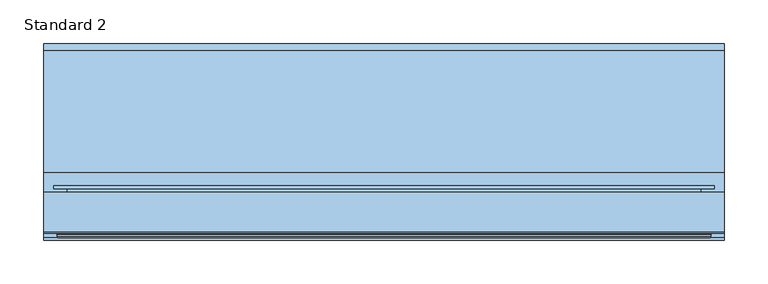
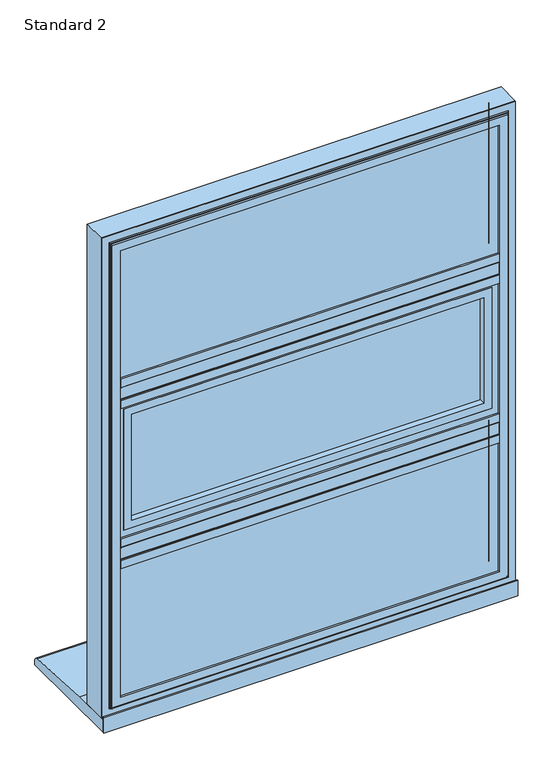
"""IFC4 building model written with IfcOpenShell, lengths in millimetres: window geometry, SMARTS_AlithermHeritage : Standard 2."""

import ifcopenshell
import ifcopenshell.guid

model = None  # the IFC model being written
_history = None  # IfcOwnerHistory: only IFC2X3 demands one
_inside = {}  # id of a spatial element -> (the spatial element, [elements in it])
_under = {}  # id of a project, library or spatial element -> (it, [spatial elements below it])
_declared = {}  # id of a project -> (the project, [libraries it declares])
_typed = {}  # id of a type object -> (the type object, [elements of that type])
_made_of = {}  # id of a material, layer set ... -> (it, [elements and type objects made of it])


def new_model(schema):
    """Start an empty IFC model of exactly this schema.

    Asked for "IFC4X3", IfcOpenShell would pick the latest addendum, in which some entities
    have other attributes; the version numbers below select the first issue.
    IFC2X3 requires an IfcOwnerHistory on every rooted entity: one is made here for all.
    """
    global model, _history
    if schema == "IFC4X3":
        model = ifcopenshell.file(schema_version=(4, 3, 0, 0))
    else:
        model = ifcopenshell.file(schema=schema)
    _inside.clear()
    _under.clear()
    _declared.clear()
    _typed.clear()
    _made_of.clear()
    _history = None
    if model.schema == "IFC2X3":
        org = make("IfcOrganization", Name="unknown")
        user = make(
            "IfcPersonAndOrganization",
            ThePerson=make("IfcPerson", FamilyName="unknown"),
            TheOrganization=org,
        )
        app = make(
            "IfcApplication",
            ApplicationDeveloper=org,
            Version="unknown",
            ApplicationFullName="unknown",
            ApplicationIdentifier="unknown",
        )
        _history = make(
            "IfcOwnerHistory",
            OwningUser=user,
            OwningApplication=app,
            ChangeAction="ADDED",
            CreationDate=0,
        )
    return model


def make(cls, **values):
    """One entity of the class cls with the attributes given. An attribute that is None is left unset."""
    return model.create_entity(
        cls, **{name: value for name, value in values.items() if value is not None}
    )


def rooted(cls, **values):
    """An entity with a GlobalId (a new one), such as an element, a storey or a relation."""
    return make(cls, GlobalId=ifcopenshell.guid.new(), OwnerHistory=_history, **values)


def si_unit(unit_type, name, prefix=None):
    """IfcSIUnit, for example si_unit("LENGTHUNIT", "METRE", prefix="MILLI")."""
    return make("IfcSIUnit", UnitType=unit_type, Prefix=prefix, Name=name)


def assignment(units):
    """IfcUnitAssignment: the units of a project."""
    return None if units is None else make("IfcUnitAssignment", Units=units)


def point(xyz):
    """IfcCartesianPoint."""
    return None if xyz is None else make("IfcCartesianPoint", Coordinates=xyz)


def direction(xyz):
    """IfcDirection."""
    return None if xyz is None else make("IfcDirection", DirectionRatios=xyz)


def frame(location, z_axis=None, x_axis=None):
    """IfcAxis2Placement3D, a coordinate frame: its origin and axes. An axis left out is left unset."""
    return make(
        "IfcAxis2Placement3D",
        Location=point(location),
        Axis=direction(z_axis),
        RefDirection=direction(x_axis),
    )


def frame_2d(location, x_axis=None):
    """IfcAxis2Placement2D, a coordinate frame in the plane: its origin and x axis."""
    return make(
        "IfcAxis2Placement2D", Location=point(location), RefDirection=direction(x_axis)
    )


def origin():
    """The frame at (0, 0, 0) with its axes left unset."""
    return frame((0.0, 0.0, 0.0))


def place(relative_to, where):
    """IfcLocalPlacement: puts the frame where relative to a parent placement (None: the world)."""
    return make(
        "IfcLocalPlacement", PlacementRelTo=relative_to, RelativePlacement=where
    )


def context(
    kind, dimensions, precision=None, world=None, true_north=None, identifier=None
):
    """IfcGeometricRepresentationContext, for example the 3D "Model" context."""
    return make(
        "IfcGeometricRepresentationContext",
        ContextIdentifier=identifier,
        ContextType=kind,
        CoordinateSpaceDimension=dimensions,
        Precision=precision,
        WorldCoordinateSystem=world,
        TrueNorth=true_north,
    )


def project(units=None, contexts=None):
    """IfcProject with its units and contexts."""
    return rooted(
        "IfcProject",
        Name="project",
        RepresentationContexts=contexts,
        UnitsInContext=assignment(units),
    )


def spatial(cls, under=None, at=None, **own):
    """A site, building, storey or space (cls), placed at a placement, below another one or the project."""
    s = rooted(cls, ObjectPlacement=at, **own)
    if under is not None:
        _under.setdefault(under.id(), (under, []))[1].append(s)
    return s


def polyline(points):
    """IfcPolyline through the points."""
    return make("IfcPolyline", Points=[point(p) for p in points])


def circle_curve(where, radius):
    """IfcCircle in the frame where."""
    return make("IfcCircle", Position=where, Radius=radius)


def ellipse_curve(where, semi_axis1, semi_axis2):
    """IfcEllipse in the frame where."""
    return make(
        "IfcEllipse", Position=where, SemiAxis1=semi_axis1, SemiAxis2=semi_axis2
    )


def trimmed(basis, trim1, trim2, sense, master):
    """IfcTrimmedCurve: the piece of a basis curve between two trims."""
    return make(
        "IfcTrimmedCurve",
        BasisCurve=basis,
        Trim1=trim1,
        Trim2=trim2,
        SenseAgreement=sense,
        MasterRepresentation=master,
    )


def segment(curve, same_sense, transition):
    """IfcCompositeCurveSegment."""
    return make(
        "IfcCompositeCurveSegment",
        Transition=transition,
        SameSense=same_sense,
        ParentCurve=curve,
    )


def composite_curve(segments, self_intersect=None):
    """IfcCompositeCurve: segments joined end to end."""
    return make("IfcCompositeCurve", Segments=segments, SelfIntersect=self_intersect)


def outline(outer, holes=None, kind="AREA"):
    """IfcArbitraryClosedProfileDef: a profile drawn as a closed curve; with holes, ...WithVoids."""
    if holes is None:
        return make("IfcArbitraryClosedProfileDef", ProfileType=kind, OuterCurve=outer)
    return make(
        "IfcArbitraryProfileDefWithVoids",
        ProfileType=kind,
        OuterCurve=outer,
        InnerCurves=holes,
    )


def extrude(swept, where, along, depth):
    """IfcExtrudedAreaSolid: the profile swept, set in the frame where, extruded along a direction by depth."""
    return make(
        "IfcExtrudedAreaSolid",
        SweptArea=swept,
        Position=where,
        ExtrudedDirection=direction(along),
        Depth=depth,
    )


def faces_of(points, faces, orient=None, outer=None):
    """IfcFace entities. A face is a list of loops; a loop is a list of indices into points, from 0.

    orient and outer hold one flag for each loop. By default every Orientation is true, the
    first loop of a face is its IfcFaceOuterBound and the others are IfcFaceBound.
    """
    made = []
    for i, loops in enumerate(faces):
        bounds = []
        for j, loop in enumerate(loops):
            is_outer = j == 0 if outer is None else outer[i][j]
            bounds.append(
                make(
                    "IfcFaceOuterBound" if is_outer else "IfcFaceBound",
                    Bound=make("IfcPolyLoop", Polygon=[points[k] for k in loop]),
                    Orientation=True if orient is None else orient[i][j],
                )
            )
        made.append(make("IfcFace", Bounds=bounds))
    return made


def faceted_brep(points, faces, orient=None, outer=None, voids=None):
    """IfcFacetedBrep: a solid bounded by flat faces; with voids (closed shells), ...WithVoids."""
    shared = [point(p) for p in points]
    hull = make("IfcClosedShell", CfsFaces=faces_of(shared, faces, orient, outer))
    if voids is None:
        return make("IfcFacetedBrep", Outer=hull)
    return make(
        "IfcFacetedBrepWithVoids",
        Outer=hull,
        Voids=[
            make(cls, CfsFaces=faces_of(shared, fs, o, b)) for cls, fs, o, b in voids
        ],
    )


def shape(context_of_items, identifier, shape_type, items):
    """IfcShapeRepresentation: the items that make up one representation, for example the "Body"."""
    return make(
        "IfcShapeRepresentation",
        ContextOfItems=context_of_items,
        RepresentationIdentifier=identifier,
        RepresentationType=shape_type,
        Items=items,
    )


def source(mapping_origin, context_of_items, identifier, shape_type, items):
    """IfcRepresentationMap: a shape defined once, which mapped items show again and again."""
    return make(
        "IfcRepresentationMap",
        MappingOrigin=mapping_origin,
        MappedRepresentation=shape(context_of_items, identifier, shape_type, items),
    )


def transform(
    local_origin,
    x_axis=None,
    y_axis=None,
    z_axis=None,
    scale=None,
    scale2=None,
    scale3=None,
    uniform=True,
):
    """IfcCartesianTransformationOperator3D, or its non-uniform kind. x_axis, y_axis, z_axis: its Axis1, 2, 3."""
    if uniform:
        return make(
            "IfcCartesianTransformationOperator3D",
            Axis1=direction(x_axis),
            Axis2=direction(y_axis),
            LocalOrigin=point(local_origin),
            Scale=scale,
            Axis3=direction(z_axis),
        )
    return make(
        "IfcCartesianTransformationOperator3DnonUniform",
        Axis1=direction(x_axis),
        Axis2=direction(y_axis),
        LocalOrigin=point(local_origin),
        Scale=scale,
        Axis3=direction(z_axis),
        Scale2=scale2,
        Scale3=scale3,
    )


def mapped(mapping_source, mapping_target):
    """IfcMappedItem: shows the shape of a source again, moved by a transform."""
    return make(
        "IfcMappedItem", MappingSource=mapping_source, MappingTarget=mapping_target
    )


def made_of(thing, what):
    """Note that an element or type object is made of a material, layer set ...; save() writes the relation."""
    if what is not None:
        _made_of.setdefault(what.id(), (what, []))[1].append(thing)
    return thing


def element(
    cls,
    number,
    at=None,
    inside=None,
    cuts=None,
    type_object=None,
    material=None,
    context=None,
    identifier="Body",
    shape_type=None,
    held_by="IfcProductDefinitionShape",
    body=None,
    shapes=None,
    **own,
):
    """One element of the class cls, such as IfcWall. Its Tag is "e" and its number.

    at: its placement. inside: the storey or other place that contains it. cuts: it is an
    opening in that element (IfcRelVoidsElement). A single representation is given by context,
    identifier, shape_type and body (its items); several are given by shapes. held_by: the class
    of the entity that holds the representations. save() writes the other relations.
    """
    e = rooted(cls, Tag="e%d" % number, ObjectPlacement=at, **own)
    if body is not None:
        shapes = [shape(context, identifier, shape_type, body)]
    if shapes is not None:
        e.Representation = make(held_by, Representations=shapes)
    if inside is not None:
        _inside.setdefault(inside.id(), (inside, []))[1].append(e)
    if cuts is not None:
        rooted(
            "IfcRelVoidsElement", RelatingBuildingElement=cuts, RelatedOpeningElement=e
        )
    if type_object is not None:
        _typed.setdefault(type_object.id(), (type_object, []))[1].append(e)
    return made_of(e, material)


def aggregate(whole, parts):
    """IfcRelAggregates: a whole, such as a stair, and the parts it consists of."""
    return rooted("IfcRelAggregates", RelatingObject=whole, RelatedObjects=parts)


def save(model, path):
    """Write the relations noted so far, then the file.

    IfcRelAggregates (storeys below a building ...), IfcRelContainedInSpatialStructure (elements
    in a storey), IfcRelDefinesByType, IfcRelAssociatesMaterial and IfcRelDeclares: one each for
    every whole, place, type object, material and project.
    """
    for whole, parts in _under.values():
        aggregate(whole, parts)
    for where, things in _inside.values():
        rooted(
            "IfcRelContainedInSpatialStructure",
            RelatedElements=things,
            RelatingStructure=where,
        )
    for kind, things in _typed.values():
        rooted("IfcRelDefinesByType", RelatedObjects=things, RelatingType=kind)
    for what, things in _made_of.values():
        rooted("IfcRelAssociatesMaterial", RelatedObjects=things, RelatingMaterial=what)
    for by, libraries in _declared.values():
        rooted("IfcRelDeclares", RelatingContext=by, RelatedDefinitions=libraries)
    model.write(path)


def plane_surface(at):
    """IfcPlane: the flat surface through the origin of the frame at, square to its z axis."""
    return make("IfcPlane", Position=at)


def cylinder_surface(at, radius):
    """IfcCylindricalSurface: all points at the distance radius from the z axis of the frame at."""
    return make("IfcCylindricalSurface", Position=at, Radius=radius)


def revolved_surface(curve, axis_point, axis_direction):
    """IfcSurfaceOfRevolution: the curve turned about the line through axis_point along axis_direction."""
    return make(
        "IfcSurfaceOfRevolution",
        SweptCurve=make("IfcArbitraryOpenProfileDef", ProfileType="CURVE", Curve=curve),
        AxisPosition=make("IfcAxis1Placement", Location=point(axis_point), Axis=direction(axis_direction)),
    )


def advanced_brep(points, edges, surfaces, faces):
    """IfcAdvancedBrep: a solid bounded by faces that lie on surfaces and meet in shared edges.

    An edge is (start, end): straight between two places in points (the first is 0);
    or (start, end, curve); or (start, end, curve, False) where it runs against its curve.
    A face is (place in surfaces, loops), or (place, loops, False) where it looks against
    its surface's normal. A loop lists edges by number (the first is 1), with a minus sign
    where the edge is run from its end to its start. The first loop is the outer one.
    """
    corners = [point(p) for p in points]
    vertices = [make("IfcVertexPoint", VertexGeometry=c) for c in corners]
    made = []
    for start, end, *more in edges:
        made.append(
            make(
                "IfcEdgeCurve",
                EdgeStart=vertices[start],
                EdgeEnd=vertices[end],
                EdgeGeometry=more[0] if more else make("IfcPolyline", Points=[corners[start], corners[end]]),
                SameSense=more[1] if len(more) > 1 else True,
            )
        )
    hull = []
    for where, loops, *sense in faces:
        bounds = []
        for j, loop in enumerate(loops):
            ring = [make("IfcOrientedEdge", EdgeElement=made[abs(k) - 1], Orientation=k > 0) for k in loop]
            bounds.append(
                make(
                    "IfcFaceOuterBound" if j == 0 else "IfcFaceBound",
                    Bound=make("IfcEdgeLoop", EdgeList=ring),
                    Orientation=True,
                )
            )
        hull.append(make("IfcAdvancedFace", Bounds=bounds, FaceSurface=surfaces[where], SameSense=sense[0] if sense else True))
    return make("IfcAdvancedBrep", Outer=make("IfcClosedShell", CfsFaces=hull))


def standard_2_2b1a771f(model_context):
    return source(origin(), model_context, "Body", "SolidModel", [
        extrude(outline(polyline([(372.3058544, 95.2798432), (372.3058544, 47.279476), (-372.3058544, 47.279476), (-372.3058544, 95.2798432), (372.3058544, 95.2798432)])), frame((0.0, 0.0, 939.6391878), z_axis=(0.0, 0.0, 1.0), x_axis=(1.0, 0.0, 0.0)), (0.0, 0.0, 1.0), 27.3882911),
        extrude(outline(composite_curve([segment(polyline([(47.279476, 924.3333333), (43.2798432, 924.3333333), (43.2798432, 940.3333333)]), True, "CONTINUOUS"), segment(trimmed(circle_curve(frame_2d((44.2798432, 940.3333333)), 1.0), [point((43.2798432, 940.3333333))], [point((44.2798432, 941.3333333))], False, "CARTESIAN"), True, "CONTINUOUS"), segment(polyline([(44.2798432, 941.3333333), (45.7798432, 941.3333333), (45.7798432, 965.3333333), (44.2798432, 965.3333333)]), True, "CONTINUOUS"), segment(trimmed(circle_curve(frame_2d((44.2798432, 966.3333333)), 1.0), [point((44.2798432, 965.3333333))], [point((43.2798432, 966.3333333))], False, "CARTESIAN"), True, "CONTINUOUS"), segment(polyline([(43.2798432, 966.3333333), (43.2798432, 982.3333333), (47.279476, 982.3333333), (47.279476, 924.3333333)]), True, "CONTINUOUS")], self_intersect=False)), frame((-357.0, 0.0, 0.0), z_axis=(1.0, 0.0, 0.0), x_axis=(0.0, 1.0, 0.0)), (0.0, 0.0, 1.0), 714.0),
        extrude(outline(polyline([(372.3058544, 95.2798432), (372.3058544, 47.279476), (-372.3058544, 47.279476), (-372.3058544, 95.2798432), (372.3058544, 95.2798432)])), frame((0.0, 0.0, 1257.9725211), z_axis=(0.0, 0.0, 1.0), x_axis=(1.0, 0.0, 0.0)), (0.0, 0.0, 1.0), 27.3882911),
        extrude(outline(composite_curve([segment(polyline([(47.279476, 1242.6666667), (43.2798432, 1242.6666667), (43.2798432, 1258.6666667)]), True, "CONTINUOUS"), segment(trimmed(circle_curve(frame_2d((44.2798432, 1258.6666667)), 1.0), [point((43.2798432, 1258.6666667))], [point((44.2798432, 1259.6666667))], False, "CARTESIAN"), True, "CONTINUOUS"), segment(polyline([(44.2798432, 1259.6666667), (45.7798432, 1259.6666667), (45.7798432, 1283.6666667), (44.2798432, 1283.6666667)]), True, "CONTINUOUS"), segment(trimmed(circle_curve(frame_2d((44.2798432, 1284.6666667)), 1.0), [point((44.2798432, 1283.6666667))], [point((43.2798432, 1284.6666667))], False, "CARTESIAN"), True, "CONTINUOUS"), segment(polyline([(43.2798432, 1284.6666667), (43.2798432, 1300.6666667), (47.279476, 1300.6666667), (47.279476, 1242.6666667)]), True, "CONTINUOUS")], self_intersect=False)), frame((-357.0, 0.0, 0.0), z_axis=(1.0, 0.0, 0.0), x_axis=(0.0, 1.0, 0.0)), (0.0, 0.0, 1.0), 714.0),
        extrude(outline(polyline([(-367.0, 75.2798432), (367.0, 75.2798432), (367.0, 71.2798432), (-367.0, 71.2798432), (-367.0, 75.2798432)])), frame((0.0, 0.0, 658.0), z_axis=(0.0, 0.0, 1.0), x_axis=(1.0, 0.0, 0.0)), (0.0, 0.0, 1.0), 276.3333333),
        extrude(outline(polyline([(-367.0, 55.2798432), (367.0, 55.2798432), (367.0, 51.2798432), (-367.0, 51.2798432), (-367.0, 55.2798432)])), frame((0.0, 0.0, 658.0), z_axis=(0.0, 0.0, 1.0), x_axis=(1.0, 0.0, 0.0)), (0.0, 0.0, 1.0), 276.3333333),
        extrude(outline(polyline([(934.3333333, -367.0), (658.0, -367.0), (658.0, 367.0), (934.3333333, 367.0), (934.3333333, -367.0)]), holes=[polyline([(924.3333333, 357.0), (668.0, 357.0), (668.0, -357.0), (924.3333333, -357.0), (924.3333333, 357.0)])]), frame((0.0, 55.2798432, 0.0), z_axis=(0.0, 1.0, 0.0), x_axis=(0.0, 0.0, 1.0)), (0.0, 0.0, 1.0), 16.0),
        faceted_brep([(366.8148849, 95.2798432, 934.1482182), (357.0, 78.2798098, 924.3333333), (-357.0, 78.2798098, 924.3333333), (-366.8148849, 95.2798432, 934.1482182), (372.3702676, 78.2798098, 939.7036009), (372.3702676, 95.2798432, 939.7036009), (-372.3702676, 95.2798432, 939.7036009), (-372.3702676, 78.2798098, 939.7036009), (-372.3702676, 78.2798098, 652.6297324), (-372.3702676, 95.2798432, 652.6297324), (372.3702676, 95.2798432, 652.6297324), (372.3702676, 78.2798098, 652.6297324), (-366.8148849, 95.2798432, 658.1851151), (366.8148849, 95.2798432, 658.1851151), (357.0, 78.2798098, 668.0), (-357.0, 78.2798098, 668.0)], [[[0, 1, 2, 3]], [[4, 5, 6, 7]], [[8, 9, 10, 11]], [[5, 10, 9, 6], [3, 12, 13, 0]], [[7, 8, 11, 4], [1, 14, 15, 2]], [[3, 2, 15, 12]], [[7, 6, 9, 8]], [[12, 15, 14, 13]], [[13, 14, 1, 0]], [[11, 10, 5, 4]]]),
        extrude(outline(polyline([(-343.5, 89.2798432), (343.5, 89.2798432), (343.5, 85.2798432), (-343.5, 85.2798432), (-343.5, 89.2798432)])), frame((0.0, 0.0, 995.8333333), z_axis=(0.0, 0.0, 1.0), x_axis=(1.0, 0.0, 0.0)), (0.0, 0.0, 1.0), 233.3333333),
        extrude(outline(polyline([(-343.5, 69.2798432), (343.5, 69.2798432), (343.5, 65.2798432), (-343.5, 65.2798432), (-343.5, 69.2798432)])), frame((0.0, 0.0, 995.8333333), z_axis=(0.0, 0.0, 1.0), x_axis=(1.0, 0.0, 0.0)), (0.0, 0.0, 1.0), 233.3333333),
        extrude(outline(polyline([(1229.1666667, -343.5), (995.8333333, -343.5), (995.8333333, 343.5), (1229.1666667, 343.5), (1229.1666667, -343.5)]), holes=[polyline([(1219.1666667, 333.5), (1005.8333333, 333.5), (1005.8333333, -333.5), (1219.1666667, -333.5), (1219.1666667, 333.5)])]), frame((0.0, 69.2798432, 0.0), z_axis=(0.0, 1.0, 0.0), x_axis=(0.0, 0.0, 1.0)), (0.0, 0.0, 1.0), 16.0),
        extrude(outline(polyline([(1232.6719623, -347.0052956), (992.3280377, -347.0052956), (992.3280377, 347.0052956), (1232.6719623, 347.0052956), (1232.6719623, -347.0052956)]), holes=[polyline([(1217.6666667, 332.0), (1007.3333333, 332.0), (1007.3333333, -332.0), (1217.6666667, -332.0), (1217.6666667, 332.0)])]), frame((0.0, 51.2798432, 0.0), z_axis=(0.0, 1.0, 0.0), x_axis=(0.0, 0.0, 1.0)), (0.0, 0.0, 1.0), 11.3),
        extrude(outline(polyline([(976.6881375, -362.6451958), (976.6881375, 362.6451958), (1248.3118625, 362.6451958), (1248.3118625, -362.6451958), (976.6881375, -362.6451958)]), holes=[polyline([(1232.6666667, -347.0), (1232.6666667, 347.0), (992.3333333, 347.0), (992.3333333, -347.0), (1232.6666667, -347.0)])]), frame((0.0, 51.2798432, 0.0), z_axis=(0.0, 1.0, 0.0), x_axis=(0.0, 0.0, 1.0)), (0.0, 0.0, 1.0), 41.6),
        advanced_brep(
        [(-332.0, 98.0798432, 1217.6666667), (-332.0, 92.8798432, 1217.6666667), (-332.0, 92.8798432, 1007.3333333), (-332.0, 98.0798432, 1007.3333333), (332.0, 92.8798432, 1007.3333333), (332.0, 98.0798432, 1007.3333333), (332.0, 92.8798432, 1217.6666667), (332.0, 98.0798432, 1217.6666667), (-378.2, 99.2798432, 1263.8666667), (-378.2, 103.2798432, 1263.8666667), (-378.2, 103.2798432, 961.1333333), (-378.2, 99.2798432, 961.1333333), (378.2, 103.2798432, 961.1333333), (378.2, 99.2798432, 961.1333333), (378.2, 103.2798432, 1263.8666667), (378.2, 99.2798432, 1263.8666667), (-363.1467657, 99.2798432, 1248.8134324), (363.1467657, 99.2798432, 1248.8134324), (363.1467657, 99.2798432, 976.1865676), (-363.1467657, 99.2798432, 976.1865676), (-349.2, 103.2798432, 990.1333333), (349.2, 103.2798432, 990.1333333), (349.2, 103.2798432, 1234.8666667), (-349.2, 103.2798432, 1234.8666667), (-363.1467657, 92.8798432, 1248.8134324), (-363.1467657, 92.8798432, 976.1865676), (363.1467657, 92.8798432, 976.1865676), (363.1467657, 92.8798432, 1248.8134324), (-347.2, 101.2798432, 1232.8666667), (-347.2, 100.0798432, 1232.8666667), (-347.2, 100.0798432, 992.1333333), (-347.2, 101.2798432, 992.1333333), (-345.2, 98.0798432, 1230.8666667), (-345.2, 98.0798432, 994.1333333), (347.2, 100.0798432, 992.1333333), (347.2, 101.2798432, 992.1333333), (345.2, 98.0798432, 994.1333333), (347.2, 100.0798432, 1232.8666667), (347.2, 101.2798432, 1232.8666667), (345.2, 98.0798432, 1230.8666667)],
        [
            (0, 1),
            (1, 2),
            (2, 3),
            (3, 0),
            (2, 4),
            (4, 5),
            (5, 3),
            (4, 6),
            (6, 7),
            (7, 5),
            (6, 1),
            (0, 7),
            (8, 9),
            (9, 10),
            (10, 11),
            (11, 8),
            (10, 12),
            (12, 13),
            (13, 11),
            (12, 14),
            (14, 15),
            (15, 13),
            (15, 8),
            (16, 17),
            (17, 18),
            (18, 19),
            (19, 16),
            (14, 9),
            (20, 21),
            (21, 22),
            (22, 23),
            (23, 20),
            (24, 16),
            (19, 25),
            (25, 24),
            (18, 26),
            (26, 25),
            (17, 27),
            (27, 26),
            (27, 24),
            (28, 29),
            (29, 30),
            (30, 31),
            (31, 28),
            (29, 32, ellipse_curve(frame((-345.2, 100.0798432, 1230.8666667), z_axis=(0.7071067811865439, 0.0, 0.7071067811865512), x_axis=(0.7071067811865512, 0.0, -0.7071067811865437)), 2.8284271, 2.0)),
            (32, 33),
            (33, 30, ellipse_curve(frame((-345.2, 100.0798432, 994.1333333), z_axis=(0.7071067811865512, 0.0, -0.7071067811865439), x_axis=(-0.7071067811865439, 0.0, -0.707106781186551)), 2.8284271, 2.0)),
            (30, 34),
            (34, 35),
            (35, 31),
            (33, 36),
            (36, 34, ellipse_curve(frame((345.2, 100.0798432, 994.1333333), z_axis=(0.7071067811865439, 0.0, 0.7071067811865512), x_axis=(0.707106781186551, 0.0, -0.7071067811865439)), 2.8284271, 2.0)),
            (34, 37),
            (37, 38),
            (38, 35),
            (36, 39),
            (39, 37, ellipse_curve(frame((345.2, 100.0798432, 1230.8666667), z_axis=(-0.7071067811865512, 0.0, 0.7071067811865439), x_axis=(0.7071067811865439, 0.0, 0.707106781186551)), 2.8284271, 2.0)),
            (32, 39),
            (37, 29),
            (28, 38),
            (23, 28, ellipse_curve(frame((-349.2, 101.2798432, 1234.8666667), z_axis=(-0.7071067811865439, 0.0, -0.7071067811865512), x_axis=(-0.7071067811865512, 0.0, 0.7071067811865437)), 2.8284271, 2.0)),
            (31, 20, ellipse_curve(frame((-349.2, 101.2798432, 990.1333333), z_axis=(-0.7071067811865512, 0.0, 0.7071067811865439), x_axis=(0.7071067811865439, 0.0, 0.707106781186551)), 2.8284271, 2.0)),
            (35, 21, ellipse_curve(frame((349.2, 101.2798432, 990.1333333), z_axis=(-0.7071067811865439, 0.0, -0.7071067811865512), x_axis=(-0.707106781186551, 0.0, 0.7071067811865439)), 2.8284271, 2.0)),
            (38, 22, ellipse_curve(frame((349.2, 101.2798432, 1234.8666667), z_axis=(0.7071067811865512, 0.0, -0.7071067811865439), x_axis=(-0.7071067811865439, 0.0, -0.707106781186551)), 2.8284271, 2.0)),
        ],
        [
            plane_surface(frame((-332.0, 92.8798432, 1217.6666667), z_axis=(1.0, 0.0, 0.0), x_axis=(0.0, 0.0, -1.0))),
            plane_surface(frame((-332.0, 92.8798432, 1007.3333333), z_axis=(0.0, 0.0, 1.0), x_axis=(1.0, 0.0, 0.0))),
            plane_surface(frame((332.0, 92.8798432, 1007.3333333), z_axis=(-1.0, 0.0, 0.0), x_axis=(0.0, 0.0, 1.0))),
            plane_surface(frame((332.0, 92.8798432, 1217.6666667), z_axis=(0.0, 0.0, -1.0), x_axis=(-1.0, 0.0, 0.0))),
            plane_surface(frame((-378.2, 103.2798432, 1263.8666667), z_axis=(-1.0, 0.0, 0.0), x_axis=(0.0, 0.0, -1.0))),
            plane_surface(frame((-378.2, 103.2798432, 961.1333333), z_axis=(0.0, 0.0, -1.0), x_axis=(1.0, 0.0, 0.0))),
            plane_surface(frame((378.2, 103.2798432, 961.1333333), z_axis=(1.0, 0.0, 0.0), x_axis=(0.0, 0.0, 1.0))),
            plane_surface(frame((378.2, 99.2798432, 1263.8666667), z_axis=(0.0, -1.0, 0.0), x_axis=(-1.0, 0.0, 0.0))),
            plane_surface(frame((378.2, 103.2798432, 1263.8666667), z_axis=(0.0, 0.0, 1.0), x_axis=(-1.0, 0.0, 0.0))),
            plane_surface(frame((349.2, 103.2798432, 1234.8666667), z_axis=(0.0, 1.0, 0.0), x_axis=(-1.0, 0.0, 0.0))),
            plane_surface(frame((-363.1467657, 99.2798432, 1248.8134324), z_axis=(-1.0, 0.0, 0.0), x_axis=(0.0, 0.0, -1.0))),
            plane_surface(frame((-363.1467657, 99.2798432, 976.1865676), z_axis=(0.0, 0.0, -1.0), x_axis=(1.0, 0.0, 0.0))),
            plane_surface(frame((363.1467657, 99.2798432, 976.1865676), z_axis=(1.0, 0.0, 0.0), x_axis=(0.0, 0.0, 1.0))),
            plane_surface(frame((363.1467657, 92.8798432, 1248.8134324), z_axis=(0.0, -1.0, 0.0), x_axis=(-1.0, 0.0, 0.0))),
            plane_surface(frame((363.1467657, 99.2798432, 1248.8134324), z_axis=(0.0, 0.0, 1.0), x_axis=(-1.0, 0.0, 0.0))),
            plane_surface(frame((-347.2, 100.0798432, 1232.8666667), z_axis=(1.0, 0.0, 0.0), x_axis=(0.0, 0.0, -1.0))),
            revolved_surface(polyline([(-347.2, 100.0798432, 992.1333333), (-347.2, 100.0798432, 1232.8666667)]), (-345.2, 100.0798432, 1242.6666667), (0.0, 0.0, -1.0)),
            plane_surface(frame((-347.2, 100.0798432, 992.1333333), z_axis=(0.0, 0.0, 1.0), x_axis=(1.0, 0.0, 0.0))),
            revolved_surface(polyline([(347.20000000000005, 100.0798432, 992.1333333), (-347.2, 100.0798432, 992.1333333)]), (-357.0, 100.0798432, 994.1333333), (1.0, 0.0, 0.0)),
            plane_surface(frame((347.2, 100.0798432, 992.1333333), z_axis=(-1.0, 0.0, 0.0), x_axis=(0.0, 0.0, 1.0))),
            revolved_surface(polyline([(347.2, 100.0798432, 1232.8666667), (347.2, 100.0798432, 992.1333333)]), (345.2, 100.0798432, 982.3333333), (0.0, 0.0, 1.0)),
            plane_surface(frame((332.0, 98.0798432, 1217.6666667), z_axis=(0.0, 1.0, 0.0), x_axis=(-1.0, 0.0, 0.0))),
            plane_surface(frame((347.2, 100.0798432, 1232.8666667), z_axis=(0.0, 0.0, -1.0), x_axis=(-1.0, 0.0, 0.0))),
            revolved_surface(polyline([(-347.20000000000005, 100.0798432, 1232.8666667), (347.2, 100.0798432, 1232.8666667)]), (357.0, 100.0798432, 1230.8666667), (-1.0, 0.0, 0.0)),
            cylinder_surface(frame((-349.2, 101.2798432, 1242.6666667), z_axis=(0.0, 0.0, 1.0), x_axis=(-1.0, 0.0, 0.0)), 2.0),
            cylinder_surface(frame((-357.0, 101.2798432, 990.1333333), z_axis=(-1.0, 0.0, 0.0), x_axis=(0.0, 0.0, -1.0)), 2.0),
            cylinder_surface(frame((349.2, 101.2798432, 982.3333333), z_axis=(0.0, 0.0, -1.0), x_axis=(1.0, 0.0, 0.0)), 2.0),
            cylinder_surface(frame((357.0, 101.2798432, 1234.8666667), z_axis=(1.0, 0.0, 0.0), x_axis=(0.0, 0.0, 1.0)), 2.0),
        ],
        [
            (0, [[1, 2, 3, 4]]),
            (1, [[-3, 5, 6, 7]]),
            (2, [[-6, 8, 9, 10]]),
            (3, [[-9, 11, -1, 12]]),
            (4, [[13, 14, 15, 16]]),
            (5, [[-15, 17, 18, 19]]),
            (6, [[-18, 20, 21, 22]]),
            (7, [[-19, -22, 23, -16], [24, 25, 26, 27]]),
            (8, [[-21, 28, -13, -23]]),
            (9, [[-28, -20, -17, -14], [29, 30, 31, 32]]),
            (10, [[33, -27, 34, 35]]),
            (11, [[-34, -26, 36, 37]]),
            (12, [[-36, -25, 38, 39]]),
            (13, [[-37, -39, 40, -35], [-11, -8, -5, -2]]),
            (14, [[-38, -24, -33, -40]]),
            (15, [[41, 42, 43, 44]]),
            (16, [[45, 46, 47, -42]]),
            (17, [[-43, 48, 49, 50]]),
            (18, [[-47, 51, 52, -48]]),
            (19, [[-49, 53, 54, 55]]),
            (20, [[-52, 56, 57, -53]]),
            (21, [[58, -56, -51, -46], [-7, -10, -12, -4]]),
            (22, [[-54, 59, -41, 60]]),
            (23, [[-57, -58, -45, -59]]),
            (24, [[61, -44, 62, -32]]),
            (25, [[-62, -50, 63, -29]]),
            (26, [[-63, -55, 64, -30]]),
            (27, [[-64, -60, -61, -31]]),
        ],
    ),
        extrude(outline(polyline([(1590.0, 390.0), (1590.0, -390.0), (635.0, -390.0), (635.0, 390.0), (1590.0, 390.0)]), holes=[polyline([(652.7000182, 372.2999818), (652.7000182, -372.2999818), (1572.2999818, -372.2999818), (1572.2999818, 372.2999818), (652.7000182, 372.2999818)])]), frame((0.0, 50.279857, 0.0), z_axis=(0.0, 1.0, 0.0), x_axis=(0.0, 0.0, 1.0)), (0.0, 0.0, 1.0), 44.9999962),
        advanced_brep(
        [(357.0, 43.2798432, 1557.0), (357.0, 47.2798432, 1557.0), (357.0, 47.2798432, 668.0), (357.0, 43.2798432, 668.0), (390.0, 50.279857, 1590.0), (390.0, 48.279857, 1590.0), (390.0, 48.279857, 635.0), (390.0, 50.279857, 635.0), (372.4999818, 43.2798432, 1572.4999818), (-372.4999818, 43.2798432, 1572.4999818), (-372.4999818, 43.2798432, 652.5000182), (372.4999818, 43.2798432, 652.5000182), (-357.0, 43.2798432, 668.0), (-357.0, 43.2798432, 1557.0), (-390.0, 50.279857, 1590.0), (-390.0, 48.279857, 1590.0), (-390.0, 50.279857, 635.0), (372.2999818, 50.279857, 1572.2999818), (-372.2999818, 50.279857, 1572.2999818), (-372.2999818, 50.279857, 652.7000182), (372.2999818, 50.279857, 652.7000182), (-357.0, 47.2798432, 1557.0), (-357.0, 47.2798432, 668.0), (-390.0, 48.279857, 635.0), (-372.2999818, 47.2798432, 1572.2999818), (372.2999818, 47.2798432, 1572.2999818), (372.2999818, 47.2798432, 652.7000182), (374.4999818, 46.779857, 650.5000182), (374.4999818, 45.2798432, 650.5000182), (-374.4999818, 45.2798432, 650.5000182), (-374.4999818, 46.779857, 650.5000182), (374.4999818, 46.779857, 1574.4999818), (374.4999818, 45.2798432, 1574.4999818), (-372.2999818, 47.2798432, 652.7000182), (-374.4999818, 45.2798432, 1574.4999818), (-374.4999818, 46.779857, 1574.4999818), (375.9999818, 48.279857, 1575.9999818), (375.9999818, 48.279857, 649.0000182), (-375.9999818, 48.279857, 649.0000182), (-375.9999818, 48.279857, 1575.9999818)],
        [
            (0, 1),
            (1, 2),
            (2, 3),
            (3, 0),
            (4, 5),
            (5, 6),
            (6, 7),
            (7, 4),
            (8, 9),
            (9, 10),
            (10, 11),
            (11, 8),
            (3, 12),
            (12, 13),
            (13, 0),
            (14, 15),
            (15, 5),
            (4, 14),
            (7, 16),
            (16, 14),
            (17, 18),
            (18, 19),
            (19, 20),
            (20, 17),
            (13, 21),
            (21, 1),
            (2, 22),
            (22, 12),
            (22, 21),
            (6, 23),
            (23, 16),
            (23, 15),
            (24, 18),
            (17, 25),
            (25, 24),
            (20, 26),
            (26, 25),
            (27, 28),
            (28, 29),
            (29, 30),
            (30, 27),
            (31, 32),
            (32, 28),
            (27, 31),
            (19, 33),
            (33, 26),
            (24, 33),
            (29, 34),
            (34, 35),
            (35, 30),
            (34, 32),
            (31, 35),
            (36, 31, ellipse_curve(frame((375.9999818, 46.779857, 1575.9999818), z_axis=(-0.7071067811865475, 0.0, 0.7071067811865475), x_axis=(-0.7071067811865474, 0.0, -0.7071067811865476)), 2.1213203, 1.5)),
            (27, 37, ellipse_curve(frame((375.9999818, 46.779857, 649.0000182), z_axis=(-0.7071067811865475, 0.0, -0.7071067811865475), x_axis=(0.7071067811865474, 0.0, -0.7071067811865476)), 2.1213203, 1.5)),
            (37, 36),
            (30, 38, ellipse_curve(frame((-375.9999818, 46.779857, 649.0000182), z_axis=(-0.7071067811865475, 0.0, 0.7071067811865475), x_axis=(-0.7071067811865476, 0.0, -0.7071067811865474)), 2.1213203, 1.5)),
            (38, 37),
            (35, 39, ellipse_curve(frame((-375.9999818, 46.779857, 1575.9999818), z_axis=(0.7071067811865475, 0.0, 0.7071067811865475), x_axis=(-0.7071067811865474, 0.0, 0.7071067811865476)), 2.1213203, 1.5)),
            (39, 38),
            (36, 39),
            (32, 8, ellipse_curve(frame((372.4999818, 45.2798432, 1572.4999818), z_axis=(0.7071067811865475, 0.0, -0.7071067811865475), x_axis=(0.7071067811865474, 0.0, 0.7071067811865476)), 2.8284271, 2.0)),
            (11, 28, ellipse_curve(frame((372.4999818, 45.2798432, 652.5000182), z_axis=(0.7071067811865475, 0.0, 0.7071067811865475), x_axis=(-0.7071067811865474, 0.0, 0.7071067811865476)), 2.8284271, 2.0)),
            (10, 29, ellipse_curve(frame((-372.4999818, 45.2798432, 652.5000182), z_axis=(0.7071067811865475, 0.0, -0.7071067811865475), x_axis=(0.7071067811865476, 0.0, 0.7071067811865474)), 2.8284271, 2.0)),
            (9, 34, ellipse_curve(frame((-372.4999818, 45.2798432, 1572.4999818), z_axis=(-0.7071067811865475, 0.0, -0.7071067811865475), x_axis=(0.7071067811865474, 0.0, -0.7071067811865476)), 2.8284271, 2.0)),
        ],
        [
            plane_surface(frame((357.0, 47.2798432, 1557.0), z_axis=(-1.0, 0.0, 0.0), x_axis=(0.0, 0.0, -1.0))),
            plane_surface(frame((390.0, 48.279857, 1590.0), z_axis=(1.0, 0.0, 0.0), x_axis=(0.0, 0.0, -1.0))),
            plane_surface(frame((-357.0, 43.2798432, 1557.0), z_axis=(0.0, -1.0, 0.0), x_axis=(1.0, 0.0, 0.0))),
            plane_surface(frame((-390.0, 48.279857, 1590.0), z_axis=(0.0, 0.0, 1.0), x_axis=(1.0, 0.0, 0.0))),
            plane_surface(frame((-390.0, 50.279857, 1590.0), z_axis=(0.0, 1.0, 0.0), x_axis=(1.0, 0.0, 0.0))),
            plane_surface(frame((-357.0, 47.2798432, 1557.0), z_axis=(0.0, 0.0, -1.0), x_axis=(1.0, 0.0, 0.0))),
            plane_surface(frame((357.0, 47.2798432, 668.0), z_axis=(0.0, 0.0, 1.0), x_axis=(-1.0, 0.0, 0.0))),
            plane_surface(frame((-357.0, 47.2798432, 668.0), z_axis=(1.0, 0.0, 0.0), x_axis=(0.0, 0.0, 1.0))),
            plane_surface(frame((390.0, 48.279857, 635.0), z_axis=(0.0, 0.0, -1.0), x_axis=(-1.0, 0.0, 0.0))),
            plane_surface(frame((-390.0, 48.279857, 635.0), z_axis=(-1.0, 0.0, 0.0), x_axis=(0.0, 0.0, 1.0))),
            plane_surface(frame((-372.2999818, 50.279857, 1572.2999818), z_axis=(0.0, 0.0, -1.0), x_axis=(1.0, 0.0, 0.0))),
            plane_surface(frame((372.2999818, 50.279857, 1572.2999818), z_axis=(-1.0, 0.0, 0.0), x_axis=(0.0, 0.0, -1.0))),
            plane_surface(frame((374.4999818, 45.2798432, 650.5000182), z_axis=(0.0, 0.0, -1.0), x_axis=(-1.0, 0.0, 0.0))),
            plane_surface(frame((374.4999818, 45.2798432, 1574.4999818), z_axis=(1.0, 0.0, 0.0), x_axis=(0.0, 0.0, -1.0))),
            plane_surface(frame((372.2999818, 50.279857, 652.7000182), z_axis=(0.0, 0.0, 1.0), x_axis=(-1.0, 0.0, 0.0))),
            plane_surface(frame((-372.2999818, 50.279857, 652.7000182), z_axis=(1.0, 0.0, 0.0), x_axis=(0.0, 0.0, 1.0))),
            plane_surface(frame((-374.4999818, 45.2798432, 650.5000182), z_axis=(-1.0, 0.0, 0.0), x_axis=(0.0, 0.0, 1.0))),
            plane_surface(frame((-372.2999818, 47.2798432, 1572.2999818), z_axis=(0.0, 1.0, 0.0), x_axis=(1.0, 0.0, 0.0))),
            plane_surface(frame((-374.4999818, 45.2798432, 1574.4999818), z_axis=(0.0, 0.0, 1.0), x_axis=(1.0, 0.0, 0.0))),
            revolved_surface(polyline([(374.4999818, 46.779857, 647.5000182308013), (374.4999818, 46.779857, 1577.4999817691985)]), (375.9999818, 46.779857, 1590.0), (0.0, 0.0, -1.0)),
            revolved_surface(polyline([(-377.4999817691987, 46.779857, 650.5000182), (377.49998176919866, 46.779857, 650.5000182)]), (390.0, 46.779857, 649.0000182), (-1.0, 0.0, 0.0)),
            revolved_surface(polyline([(-374.4999818, 46.779857, 1577.4999817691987), (-374.4999818, 46.779857, 647.5000182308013)]), (-375.9999818, 46.779857, 635.0), (0.0, 0.0, 1.0)),
            revolved_surface(polyline([(377.4999817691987, 46.779857, 1574.4999818), (-377.49998176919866, 46.779857, 1574.4999818)]), (-390.0, 46.779857, 1575.9999818), (1.0, 0.0, 0.0)),
            plane_surface(frame((-375.9999818, 48.279857, 1575.9999818), z_axis=(0.0, -1.0, 0.0), x_axis=(1.0, 0.0, 0.0))),
            cylinder_surface(frame((372.4999818, 45.2798432, 1590.0), z_axis=(0.0, 0.0, 1.0), x_axis=(-1.0, 0.0, 0.0)), 2.0),
            cylinder_surface(frame((390.0, 45.2798432, 652.5000182), z_axis=(1.0, 0.0, 0.0), x_axis=(0.0, 0.0, 1.0)), 2.0),
            cylinder_surface(frame((-372.4999818, 45.2798432, 635.0), z_axis=(0.0, 0.0, -1.0), x_axis=(1.0, 0.0, 0.0)), 2.0),
            cylinder_surface(frame((-390.0, 45.2798432, 1572.4999818), z_axis=(-1.0, 0.0, 0.0), x_axis=(0.0, 0.0, -1.0)), 2.0),
        ],
        [
            (0, [[1, 2, 3, 4]]),
            (1, [[5, 6, 7, 8]]),
            (2, [[9, 10, 11, 12], [13, 14, 15, -4]]),
            (3, [[16, 17, -5, 18]]),
            (4, [[19, 20, -18, -8], [21, 22, 23, 24]]),
            (5, [[25, 26, -1, -15]]),
            (6, [[-3, 27, 28, -13]]),
            (7, [[-28, 29, -25, -14]]),
            (8, [[-7, 30, 31, -19]]),
            (9, [[-31, 32, -16, -20]]),
            (10, [[33, -21, 34, 35]]),
            (11, [[-34, -24, 36, 37]]),
            (12, [[38, 39, 40, 41]]),
            (13, [[42, 43, -38, 44]]),
            (14, [[-36, -23, 45, 46]]),
            (15, [[-45, -22, -33, 47]]),
            (16, [[-40, 48, 49, 50]]),
            (17, [[-46, -47, -35, -37], [-26, -29, -27, -2]]),
            (18, [[-49, 51, -42, 52]]),
            (19, [[53, -44, 54, 55]]),
            (20, [[-54, -41, 56, 57]]),
            (21, [[-56, -50, 58, 59]]),
            (22, [[-58, -52, -53, 60]]),
            (23, [[-17, -32, -30, -6], [-57, -59, -60, -55]]),
            (24, [[61, -12, 62, -43]]),
            (25, [[-62, -11, 63, -39]]),
            (26, [[-63, -10, 64, -48]]),
            (27, [[-64, -9, -61, -51]]),
        ],
    ),
        extrude(outline(polyline([(-367.0, 75.2798432), (367.0, 75.2798432), (367.0, 71.2798432), (-367.0, 71.2798432), (-367.0, 75.2798432)])), frame((0.0, 0.0, 1290.6666667), z_axis=(0.0, 0.0, 1.0), x_axis=(1.0, 0.0, 0.0)), (0.0, 0.0, 1.0), 276.3333333),
        extrude(outline(polyline([(-367.0, 55.2798432), (367.0, 55.2798432), (367.0, 51.2798432), (-367.0, 51.2798432), (-367.0, 55.2798432)])), frame((0.0, 0.0, 1290.6666667), z_axis=(0.0, 0.0, 1.0), x_axis=(1.0, 0.0, 0.0)), (0.0, 0.0, 1.0), 276.3333333),
        extrude(outline(polyline([(1567.0, -367.0), (1290.6666667, -367.0), (1290.6666667, 367.0), (1567.0, 367.0), (1567.0, -367.0)]), holes=[polyline([(1557.0, 357.0), (1300.6666667, 357.0), (1300.6666667, -357.0), (1557.0, -357.0), (1557.0, 357.0)])]), frame((0.0, 55.2798432, 0.0), z_axis=(0.0, 1.0, 0.0), x_axis=(0.0, 0.0, 1.0)), (0.0, 0.0, 1.0), 16.0),
        faceted_brep([(366.8148849, 95.2798432, 1566.8148849), (357.0, 78.2798098, 1557.0), (-357.0, 78.2798098, 1557.0), (-366.8148849, 95.2798432, 1566.8148849), (372.3702676, 78.2798098, 1572.3702676), (372.3702676, 95.2798432, 1572.3702676), (-372.3702676, 95.2798432, 1572.3702676), (-372.3702676, 78.2798098, 1572.3702676), (-372.3702676, 78.2798098, 1285.2963991), (-372.3702676, 95.2798432, 1285.2963991), (372.3702676, 95.2798432, 1285.2963991), (372.3702676, 78.2798098, 1285.2963991), (-366.8148849, 95.2798432, 1290.8517818), (366.8148849, 95.2798432, 1290.8517818), (357.0, 78.2798098, 1300.6666667), (-357.0, 78.2798098, 1300.6666667)], [[[0, 1, 2, 3]], [[4, 5, 6, 7]], [[8, 9, 10, 11]], [[5, 10, 9, 6], [3, 12, 13, 0]], [[7, 8, 11, 4], [1, 14, 15, 2]], [[3, 2, 15, 12]], [[7, 6, 9, 8]], [[12, 15, 14, 13]], [[13, 14, 1, 0]], [[11, 10, 5, 4]]]),
        extrude(outline(polyline([(390.0, 43.2798432), (390.0, 40.7798432), (-390.0, 40.7798432), (-390.0, 43.2798432), (390.0, 43.2798432)])), frame((0.0, 0.0, 610.0), z_axis=(0.0, 0.0, 1.0), x_axis=(1.0, 0.0, 0.0)), (0.0, 0.0, 1.0), 31.0),
        extrude(outline(composite_curve([segment(polyline([(265.7798432, 610.0), (43.2798432, 610.0), (43.2798432, 635.0), (118.7798432, 635.0), (258.4770891, 625.9276664)]), True, "CONTINUOUS"), segment(trimmed(circle_curve(frame_2d((257.7798432, 617.9581088)), 8.0), [point((258.4770891, 625.9276664))], [point((265.7798432, 617.9581088))], False, "CARTESIAN"), True, "CONTINUOUS"), segment(polyline([(265.7798432, 617.9581088), (265.7798432, 610.0)]), True, "CONTINUOUS")], self_intersect=False)), frame((-390.0, 0.0, 0.0), z_axis=(1.0, 0.0, 0.0), x_axis=(0.0, 1.0, 0.0)), (0.0, 0.0, 1.0), 780.0),
    ])


if __name__ == "__main__":
    model = new_model("IFC4")
    model_context = context("Model", 3, world=origin())
    ifc_project = project(units=[si_unit("LENGTHUNIT", "METRE", prefix="MILLI")], contexts=[model_context])
    site = spatial("IfcSite", under=ifc_project)
    building = spatial("IfcBuilding", under=site)
    placement = place(None, origin())
    standard_2_shape = standard_2_2b1a771f(model_context)
    element("IfcWindow", 1, ObjectType="SMARTS_AlithermHeritage : Standard 2", at=placement, inside=building, context=model_context, shape_type="MappedRepresentation", body=[
        mapped(standard_2_shape, transform((0.0, 0.0, 0.0), x_axis=(1.0, 0.0, 0.0), y_axis=(0.0, 1.0, 0.0), z_axis=(0.0, 0.0, 1.0))),
    ])
    save(model, "model.ifc")
